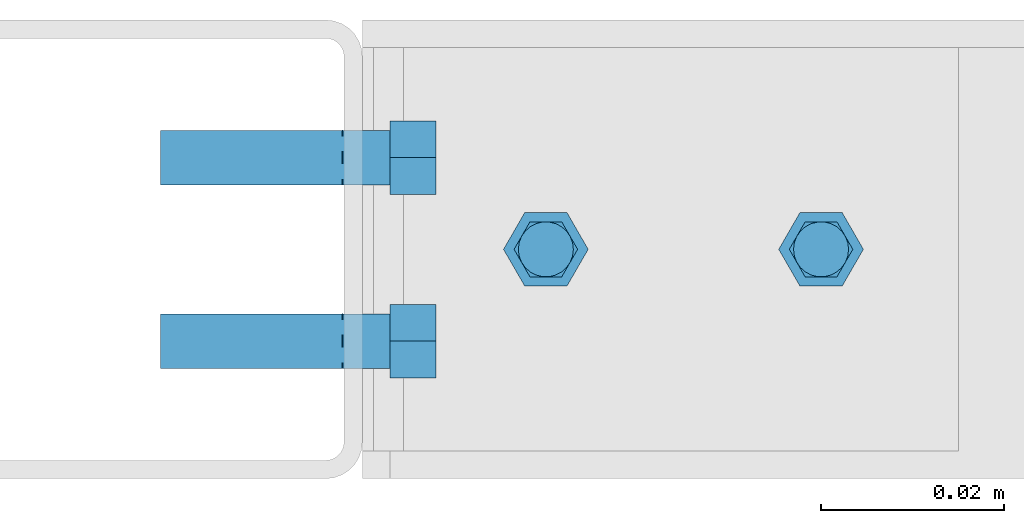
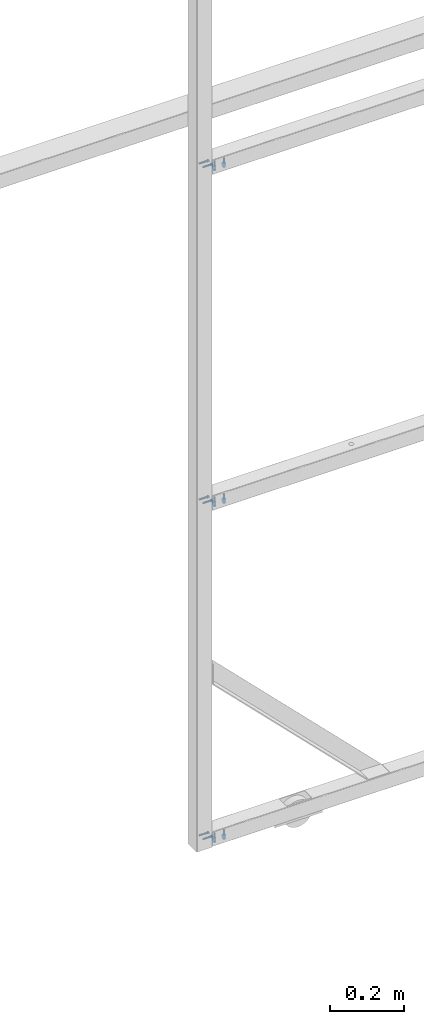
# One storey, part 54 of 91: 9 mechanical fasteners, 1 element without a shape of its own.
"""IFC2X3 building model written with IfcOpenShell, lengths in millimetres."""

from ifc_helpers import new_model, si_unit, frame, origin_with_axes, origin_2d_with_axis, place, context, subcontext, project, spatial, polyline, circle, outline, extrude, source, transform, mapped, material, type_object, element, aggregate, save


model = new_model("IFC2X3")

# Units and contexts
model_context = context("Model", 3, precision=1e-05, world=origin_with_axes())
body_context = subcontext(model_context, "Body", "Model", "MODEL_VIEW")
ifc_project = project(units=[si_unit("LENGTHUNIT", "METRE", prefix="MILLI"), si_unit("AREAUNIT", "SQUARE_METRE"), si_unit("VOLUMEUNIT", "CUBIC_METRE"), si_unit("MASSUNIT", "GRAM", prefix="KILO"), si_unit("TIMEUNIT", "SECOND"), si_unit("PLANEANGLEUNIT", "RADIAN"), si_unit("SOLIDANGLEUNIT", "STERADIAN"), si_unit("THERMODYNAMICTEMPERATUREUNIT", "DEGREE_CELSIUS"), si_unit("LUMINOUSINTENSITYUNIT", "LUMEN")], contexts=[model_context])

# Site, building, storey
site_placement = place(None, origin_with_axes())
site = spatial("IfcSite", under=ifc_project, at=site_placement, Name="Undefined", CompositionType="ELEMENT")
building_placement = place(site_placement, origin_with_axes())
building = spatial("IfcBuilding", under=site, at=building_placement, Name="Undefined", CompositionType="ELEMENT")
storey_placement = place(building_placement, origin_with_axes())
storey = spatial("IfcBuildingStorey", under=building, at=storey_placement, Name="Undefined", CompositionType="ELEMENT", Elevation=0.0)

# Assembly, mechanical fasteners
assembly_placement = place(storey_placement, origin_with_axes())
assembly = element("IfcElementAssembly", 1, at=assembly_placement, inside=storey, Name="Sliding Door Beam", AssemblyPlace="NOTDEFINED", PredefinedType="RIGID_FRAME")
ifc_material = material(Name="TEK_11TPIM")
discrete_accessory_type = type_object("IfcDiscreteAccessoryType", Name="Bolt assembly")
shared_shape_1 = source(origin_with_axes(), body_context, "Body", "SweptSolid", [
    extrude(circle(Radius=3.0, at=origin_2d_with_axis()), frame((0.0, 6.10000000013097, 0.0), z_axis=(0.0, 1.0, 0.0), x_axis=(1.0, 0.0, 0.0)), (0.0, 0.0, 1.0), 3.0),
    extrude(circle(Radius=3.0, at=origin_2d_with_axis()), frame((0.0, 8.9, 0.0), z_axis=(0.0, 1.0, 0.0), x_axis=(1.0, 0.0, 0.0)), (0.0, 0.0, 1.0), 2.1),
    extrude(outline(polyline([(4.61880215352, 0.0), (2.30940107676, 4.00000000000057), (-2.30940107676, 4.00000000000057), (-4.61880215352, 0.0), (-2.30940107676, -4.00000000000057), (2.30940107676, -4.00000000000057), (4.61880215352, 0.0)])), frame((0.0, 1.00000000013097, 0.0), z_axis=(0.0, 1.0, 0.0), x_axis=(1.0, 0.0, 0.0)), (0.0, 0.0, 1.0), 5.0),
    extrude(circle(Radius=3.0, at=origin_2d_with_axis()), frame((0.0, 6.00000000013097, 0.0), z_axis=(0.0, 1.0, 0.0), x_axis=(1.0, 0.0, 0.0)), (0.0, 0.0, 1.0), 25.0),
    extrude(circle(Radius=3.0, at=origin_2d_with_axis()), frame((0.0, 11.0, 0.0), z_axis=(0.0, 1.0, 0.0), x_axis=(1.0, 0.0, 0.0)), (0.0, 0.0, 1.0), 0.1),
    extrude(outline(polyline([(3.46410161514, 0.0), (1.73205080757, 3.00000000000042), (-1.73205080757, 3.00000000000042), (-3.46410161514, 0.0), (-1.73205080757, -3.00000000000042), (1.73205080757, -3.00000000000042), (3.46410161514, 0.0)])), frame((0.0, 11.1000000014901, 0.0), z_axis=(0.0, 1.0, 0.0), x_axis=(1.0, 0.0, 0.0)), (0.0, 0.0, 1.0), 0.1),
])
mechanical_fastener_1_placement = place(assembly_placement, frame((-113579.79, 90380.0, 8.0), z_axis=(0.0, 1.0, 0.0), x_axis=(0.0, 0.0, -1.0)))
mechanical_fastener_1 = element("IfcMechanicalFastener", 2, at=mechanical_fastener_1_placement, type_object=discrete_accessory_type, material=ifc_material, Name="Bolt assembly", NominalDiameter=6.0, NominalLength=25.0, context=body_context, shape_type="MappedRepresentation", body=[
    mapped(shared_shape_1, transform((0.0, 0.0, -10.0))),
    mapped(shared_shape_1, transform((0.0, 0.0, 10.0))),
])
mechanical_fastener_2_placement = place(assembly_placement, frame((-113579.79, 90380.0, 1122.33666666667), z_axis=(0.0, 1.0, 0.0), x_axis=(0.0, 0.0, -1.0)))
mechanical_fastener_2 = element("IfcMechanicalFastener", 3, at=mechanical_fastener_2_placement, type_object=discrete_accessory_type, material=ifc_material, Name="Bolt assembly", NominalDiameter=6.0, NominalLength=25.0, context=body_context, shape_type="MappedRepresentation", body=[
    mapped(shared_shape_1, transform((0.0, 0.0, -10.0))),
    mapped(shared_shape_1, transform((0.0, 0.0, 10.0))),
])
mechanical_fastener_3_placement = place(assembly_placement, frame((-113579.79, 90380.0, 2236.66333333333), z_axis=(0.0, 1.0, 0.0), x_axis=(0.0, 0.0, -1.0)))
mechanical_fastener_3 = element("IfcMechanicalFastener", 4, at=mechanical_fastener_3_placement, type_object=discrete_accessory_type, material=ifc_material, Name="Bolt assembly", NominalDiameter=6.0, NominalLength=25.0, context=body_context, shape_type="MappedRepresentation", body=[
    mapped(shared_shape_1, transform((0.0, 0.0, -10.0))),
    mapped(shared_shape_1, transform((0.0, 0.0, 10.0))),
])
shared_shape_2 = source(origin_with_axes(), body_context, "Body", "SweptSolid", [
    extrude(circle(Radius=3.0, at=origin_2d_with_axis()), frame((0.0, 0.0, 0.0), z_axis=(0.0, 1.0, 0.0), x_axis=(1.0, 0.0, 0.0)), (0.0, 0.0, 1.0), 3.1),
])
mechanical_fastener_4_placement = place(assembly_placement, frame((-113568.79, 90380.0, -14.0), z_axis=(0.0, -1.0, 0.0), x_axis=(1.0, 0.0, 0.0)))
mechanical_fastener_4 = element("IfcMechanicalFastener", 5, at=mechanical_fastener_4_placement, type_object=discrete_accessory_type, material=ifc_material, Name="Bolt assembly", NominalDiameter=6.0, NominalLength=8.0, context=body_context, shape_type="MappedRepresentation", body=[
    mapped(shared_shape_2, transform((0.0, 0.0, 0.0))),
    mapped(shared_shape_2, transform((30.0, 0.0, 0.0))),
])
mechanical_fastener_5_placement = place(assembly_placement, frame((-113568.79, 90380.0, 1100.33666666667), z_axis=(0.0, -1.0, 0.0), x_axis=(1.0, 0.0, 0.0)))
mechanical_fastener_5 = element("IfcMechanicalFastener", 6, at=mechanical_fastener_5_placement, type_object=discrete_accessory_type, material=ifc_material, Name="Bolt assembly", NominalDiameter=6.0, NominalLength=8.0, context=body_context, shape_type="MappedRepresentation", body=[
    mapped(shared_shape_2, transform((0.0, 0.0, 0.0))),
    mapped(shared_shape_2, transform((30.0, 0.0, 0.0))),
])
mechanical_fastener_6_placement = place(assembly_placement, frame((-113568.79, 90380.0, 2214.66333333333), z_axis=(0.0, -1.0, 0.0), x_axis=(1.0, 0.0, 0.0)))
mechanical_fastener_6 = element("IfcMechanicalFastener", 7, at=mechanical_fastener_6_placement, type_object=discrete_accessory_type, material=ifc_material, Name="Bolt assembly", NominalDiameter=6.0, NominalLength=8.0, context=body_context, shape_type="MappedRepresentation", body=[
    mapped(shared_shape_2, transform((0.0, 0.0, 0.0))),
    mapped(shared_shape_2, transform((30.0, 0.0, 0.0))),
])
shared_shape_3 = source(origin_with_axes(), body_context, "Body", "SweptSolid", [
    extrude(circle(Radius=3.0, at=origin_2d_with_axis()), frame((0.0, 0.1, 0.0), z_axis=(0.0, 1.0, 0.0), x_axis=(1.0, 0.0, 0.0)), (0.0, 0.0, 1.0), 2.0),
    extrude(circle(Radius=3.0, at=origin_2d_with_axis()), frame((0.0, 2.90000000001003, 0.0), z_axis=(0.0, 1.0, 0.0), x_axis=(1.0, 0.0, 0.0)), (0.0, 0.0, 1.0), 3.1),
    extrude(outline(polyline([(4.61880215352, 0.0), (2.30940107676, 4.00000000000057), (-2.30940107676, 4.00000000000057), (-4.61880215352, 0.0), (-2.30940107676, -4.00000000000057), (2.30940107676, -4.00000000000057), (4.61880215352, 0.0)])), frame((0.0, -5.0, 0.0), z_axis=(0.0, 1.0, 0.0), x_axis=(1.0, 0.0, 0.0)), (0.0, 0.0, 1.0), 5.0),
    extrude(circle(Radius=3.0, at=origin_2d_with_axis()), frame((0.0, 0.0, 0.0), z_axis=(0.0, 1.0, 0.0), x_axis=(1.0, 0.0, 0.0)), (0.0, 0.0, 1.0), 25.0),
    extrude(circle(Radius=3.0, at=origin_2d_with_axis()), frame((0.0, 6.00000000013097, 0.0), z_axis=(0.0, 1.0, 0.0), x_axis=(1.0, 0.0, 0.0)), (0.0, 0.0, 1.0), 0.1),
    extrude(outline(polyline([(3.46410161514, 0.0), (1.73205080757, 3.00000000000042), (-1.73205080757, 3.00000000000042), (-3.46410161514, 0.0), (-1.73205080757, -3.00000000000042), (1.73205080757, -3.00000000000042), (3.46410161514, 0.0)])), frame((0.0, 6.10000000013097, 0.0), z_axis=(0.0, 1.0, 0.0), x_axis=(1.0, 0.0, 0.0)), (0.0, 0.0, 1.0), 0.1),
])
mechanical_fastener_7_placement = place(assembly_placement, frame((-113568.79, 90380.0, -17.0), z_axis=(0.0, -1.0, 0.0), x_axis=(1.0, 0.0, 0.0)))
mechanical_fastener_7 = element("IfcMechanicalFastener", 8, at=mechanical_fastener_7_placement, type_object=discrete_accessory_type, material=ifc_material, Name="Bolt assembly", NominalDiameter=6.0, NominalLength=25.0, context=body_context, shape_type="MappedRepresentation", body=[
    mapped(shared_shape_3, transform((0.0, 0.0, 0.0))),
    mapped(shared_shape_3, transform((30.0, 0.0, 0.0))),
])
mechanical_fastener_8_placement = place(assembly_placement, frame((-113568.79, 90380.0, 1097.33666666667), z_axis=(0.0, -1.0, 0.0), x_axis=(1.0, 0.0, 0.0)))
mechanical_fastener_8 = element("IfcMechanicalFastener", 9, at=mechanical_fastener_8_placement, type_object=discrete_accessory_type, material=ifc_material, Name="Bolt assembly", NominalDiameter=6.0, NominalLength=25.0, context=body_context, shape_type="MappedRepresentation", body=[
    mapped(shared_shape_3, transform((0.0, 0.0, 0.0))),
    mapped(shared_shape_3, transform((30.0, 0.0, 0.0))),
])
mechanical_fastener_9_placement = place(assembly_placement, frame((-113568.79, 90380.0, 2211.66333333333), z_axis=(0.0, -1.0, 0.0), x_axis=(1.0, 0.0, 0.0)))
mechanical_fastener_9 = element("IfcMechanicalFastener", 10, at=mechanical_fastener_9_placement, type_object=discrete_accessory_type, material=ifc_material, Name="Bolt assembly", NominalDiameter=6.0, NominalLength=25.0, context=body_context, shape_type="MappedRepresentation", body=[
    mapped(shared_shape_3, transform((0.0, 0.0, 0.0))),
    mapped(shared_shape_3, transform((30.0, 0.0, 0.0))),
])
aggregate(assembly, [mechanical_fastener_1, mechanical_fastener_4, mechanical_fastener_7, mechanical_fastener_2, mechanical_fastener_5, mechanical_fastener_8, mechanical_fastener_3, mechanical_fastener_6, mechanical_fastener_9])

save(model, "model.ifc")
